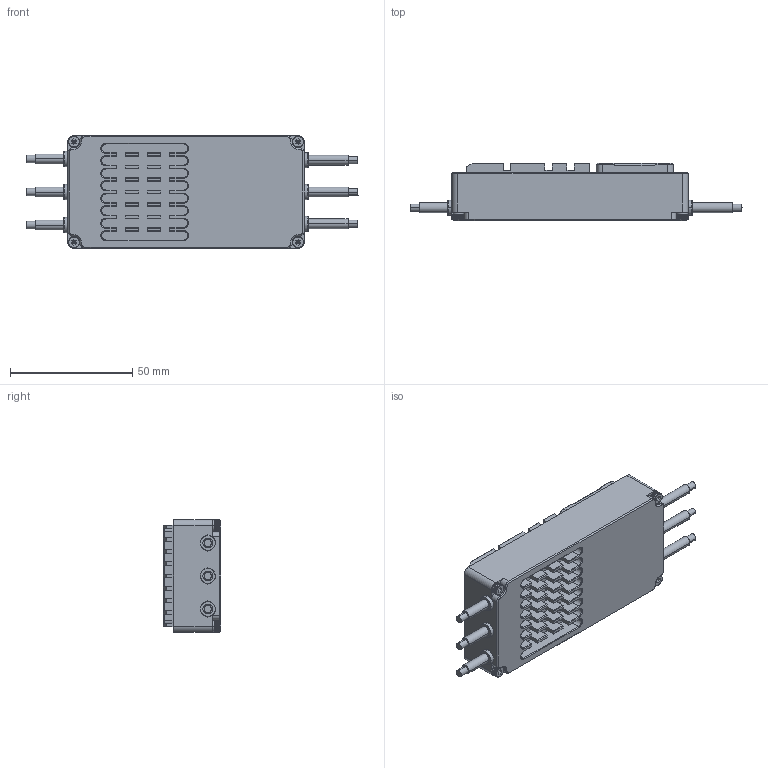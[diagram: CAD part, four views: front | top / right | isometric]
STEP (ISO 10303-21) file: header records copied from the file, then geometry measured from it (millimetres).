
FILE_DESCRIPTION((''),'2;1');
FILE_NAME('LMK','2023-08-05T16:06:42',('22429'),(''),'CREO PARAMETRIC BY PTC INC, 2021063','CREO PARAMETRIC BY PTC INC, 2021063','');
FILE_SCHEMA(('CONFIG_CONTROL_DESIGN'));
Products named in the file (1): LMK
Bounding box: 135.56 x 23.5 x 46 mm (x, y, z)
Volume: 30981.4 mm3; surface area: 40508 mm2
Topology: 1 solids, 8 shells, 2182 faces, 5558 edges, 3584 vertices
Faces by surface type: plane 1724, cylinder 328, cone 86, torus 37, bspline 4, sphere 3
Entity records: 65414 total; most frequent: CARTESIAN_POINT 11762, ORIENTED_EDGE 11108, DIRECTION 10934, EDGE_CURVE 5554, VECTOR 4390, LINE 4390, VERTEX_POINT 3584, AXIS2_PLACEMENT_3D 3272
